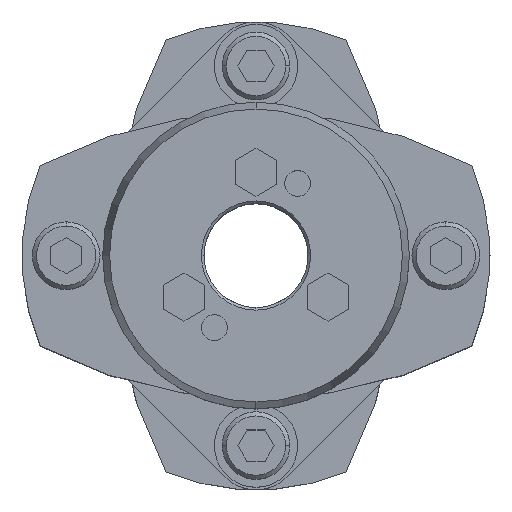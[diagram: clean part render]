
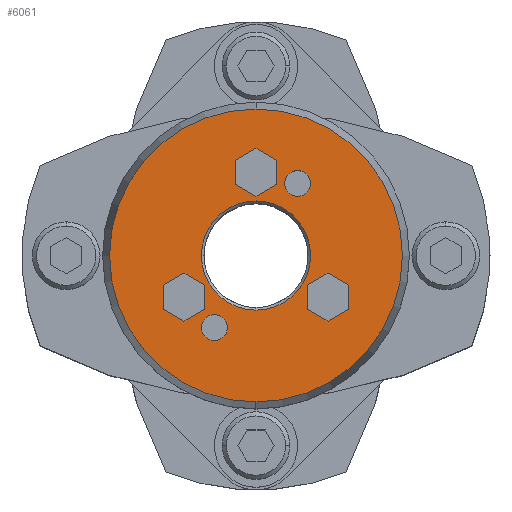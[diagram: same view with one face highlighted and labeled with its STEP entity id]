
A CAD part, top view. The second image highlights one B-rep face of the part: STEP entity #6061.
In plain terms, the highlighted planar face has unit normal (0, 0, 1).
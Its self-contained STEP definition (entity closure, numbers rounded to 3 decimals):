
#1677=CARTESIAN_POINT('',(0.,10.5,52.0));
#1678=VERTEX_POINT('',#1677);
#1694=CARTESIAN_POINT('',(0.,-10.5,52.0));
#1695=VERTEX_POINT('',#1694);
#1702=CARTESIAN_POINT('',(0.,0.,52.0));
#1703=DIRECTION('',(0.0,0.0,1.0));
#1704=DIRECTION('',(0.0,1.0,0.0));
#1705=AXIS2_PLACEMENT_3D('',#1702,#1703,#1704);
#1706=CIRCLE('',#1705,10.5);
#1707=EDGE_CURVE('',#1695,#1678,#1706,.T.);
#1865=CARTESIAN_POINT('',(0.,-28.16,52.0));
#1866=VERTEX_POINT('',#1865);
#1873=CARTESIAN_POINT('',(0.,28.16,52.0));
#1874=VERTEX_POINT('',#1873);
#1875=CARTESIAN_POINT('',(0.,0.,52.0));
#1876=DIRECTION('',(0.0,0.0,-1.0));
#1877=DIRECTION('',(0.0,-1.0,0.0));
#1878=AXIS2_PLACEMENT_3D('',#1875,#1876,#1877);
#1879=CIRCLE('',#1878,28.16);
#1880=EDGE_CURVE('',#1866,#1874,#1879,.T.);
#2123=CARTESIAN_POINT('',(8.,16.356,52.0));
#2124=VERTEX_POINT('',#2123);
#2140=CARTESIAN_POINT('',(8.,11.356,52.0));
#2141=VERTEX_POINT('',#2140);
#2148=CARTESIAN_POINT('',(8.,13.856,52.0));
#2149=DIRECTION('',(0.0,0.0,-1.0));
#2150=DIRECTION('',(0.0,1.0,0.0));
#2151=AXIS2_PLACEMENT_3D('',#2148,#2149,#2150);
#2152=CIRCLE('',#2151,2.5);
#2153=EDGE_CURVE('',#2124,#2141,#2152,.T.);
#2165=CARTESIAN_POINT('',(-8.,-11.356,52.0));
#2166=VERTEX_POINT('',#2165);
#2182=CARTESIAN_POINT('',(-8.,-16.356,52.0));
#2183=VERTEX_POINT('',#2182);
#2190=CARTESIAN_POINT('',(-8.,-13.856,52.0));
#2191=DIRECTION('',(0.0,0.0,-1.0));
#2192=DIRECTION('',(0.0,1.0,0.0));
#2193=AXIS2_PLACEMENT_3D('',#2190,#2191,#2192);
#2194=CIRCLE('',#2193,2.5);
#2195=EDGE_CURVE('',#2166,#2183,#2194,.T.);
#4577=CARTESIAN_POINT('',(13.856,-3.381,52.0));
#4578=VERTEX_POINT('',#4577);
#4585=CARTESIAN_POINT('',(9.856,-5.691,52.0));
#4586=VERTEX_POINT('',#4585);
#4587=CARTESIAN_POINT('',(9.856,-5.691,52.0));
#4588=DIRECTION('',(0.866,0.5,0.0));
#4589=VECTOR('',#4588,4.619);
#4590=LINE('',#4587,#4589);
#4591=EDGE_CURVE('',#4586,#4578,#4590,.T.);
#4615=CARTESIAN_POINT('',(17.856,-5.691,52.0));
#4616=VERTEX_POINT('',#4615);
#4623=CARTESIAN_POINT('',(13.856,-3.381,52.0));
#4624=DIRECTION('',(0.866,-0.5,0.0));
#4625=VECTOR('',#4624,4.619);
#4626=LINE('',#4623,#4625);
#4627=EDGE_CURVE('',#4578,#4616,#4626,.T.);
#4646=CARTESIAN_POINT('',(17.856,-10.309,52.0));
#4647=VERTEX_POINT('',#4646);
#4654=CARTESIAN_POINT('',(17.856,-5.691,52.0));
#4655=DIRECTION('',(0.0,-1.0,0.0));
#4656=VECTOR('',#4655,4.619);
#4657=LINE('',#4654,#4656);
#4658=EDGE_CURVE('',#4616,#4647,#4657,.T.);
#4677=CARTESIAN_POINT('',(13.856,-12.619,52.0));
#4678=VERTEX_POINT('',#4677);
#4685=CARTESIAN_POINT('',(17.856,-10.309,52.0));
#4686=DIRECTION('',(-0.866,-0.5,0.0));
#4687=VECTOR('',#4686,4.619);
#4688=LINE('',#4685,#4687);
#4689=EDGE_CURVE('',#4647,#4678,#4688,.T.);
#4708=CARTESIAN_POINT('',(9.856,-10.309,52.0));
#4709=VERTEX_POINT('',#4708);
#4716=CARTESIAN_POINT('',(13.856,-12.619,52.0));
#4717=DIRECTION('',(-0.866,0.5,0.0));
#4718=VECTOR('',#4717,4.619);
#4719=LINE('',#4716,#4718);
#4720=EDGE_CURVE('',#4678,#4709,#4719,.T.);
#4738=CARTESIAN_POINT('',(9.856,-10.309,52.0));
#4739=DIRECTION('',(0.0,1.0,0.0));
#4740=VECTOR('',#4739,4.619);
#4741=LINE('',#4738,#4740);
#4742=EDGE_CURVE('',#4709,#4586,#4741,.T.);
#4777=CARTESIAN_POINT('',(0.,20.619,52.0));
#4778=VERTEX_POINT('',#4777);
#4785=CARTESIAN_POINT('',(-4.,18.309,52.0));
#4786=VERTEX_POINT('',#4785);
#4787=CARTESIAN_POINT('',(-4.,18.309,52.0));
#4788=DIRECTION('',(0.866,0.5,0.0));
#4789=VECTOR('',#4788,4.619);
#4790=LINE('',#4787,#4789);
#4791=EDGE_CURVE('',#4786,#4778,#4790,.T.);
#4815=CARTESIAN_POINT('',(4.,18.309,52.0));
#4816=VERTEX_POINT('',#4815);
#4823=CARTESIAN_POINT('',(0.,20.619,52.0));
#4824=DIRECTION('',(0.866,-0.5,0.0));
#4825=VECTOR('',#4824,4.619);
#4826=LINE('',#4823,#4825);
#4827=EDGE_CURVE('',#4778,#4816,#4826,.T.);
#4846=CARTESIAN_POINT('',(4.,13.691,52.0));
#4847=VERTEX_POINT('',#4846);
#4854=CARTESIAN_POINT('',(4.,18.309,52.0));
#4855=DIRECTION('',(0.0,-1.0,0.0));
#4856=VECTOR('',#4855,4.619);
#4857=LINE('',#4854,#4856);
#4858=EDGE_CURVE('',#4816,#4847,#4857,.T.);
#4877=CARTESIAN_POINT('',(0.,11.381,52.0));
#4878=VERTEX_POINT('',#4877);
#4885=CARTESIAN_POINT('',(4.,13.691,52.0));
#4886=DIRECTION('',(-0.866,-0.5,0.0));
#4887=VECTOR('',#4886,4.619);
#4888=LINE('',#4885,#4887);
#4889=EDGE_CURVE('',#4847,#4878,#4888,.T.);
#4908=CARTESIAN_POINT('',(-4.,13.691,52.0));
#4909=VERTEX_POINT('',#4908);
#4916=CARTESIAN_POINT('',(0.,11.381,52.0));
#4917=DIRECTION('',(-0.866,0.5,0.0));
#4918=VECTOR('',#4917,4.619);
#4919=LINE('',#4916,#4918);
#4920=EDGE_CURVE('',#4878,#4909,#4919,.T.);
#4938=CARTESIAN_POINT('',(-4.,13.691,52.0));
#4939=DIRECTION('',(0.0,1.0,0.0));
#4940=VECTOR('',#4939,4.619);
#4941=LINE('',#4938,#4940);
#4942=EDGE_CURVE('',#4909,#4786,#4941,.T.);
#4977=CARTESIAN_POINT('',(-13.856,-3.381,52.0));
#4978=VERTEX_POINT('',#4977);
#4985=CARTESIAN_POINT('',(-17.856,-5.691,52.0));
#4986=VERTEX_POINT('',#4985);
#4987=CARTESIAN_POINT('',(-17.856,-5.691,52.0));
#4988=DIRECTION('',(0.866,0.5,0.0));
#4989=VECTOR('',#4988,4.619);
#4990=LINE('',#4987,#4989);
#4991=EDGE_CURVE('',#4986,#4978,#4990,.T.);
#5015=CARTESIAN_POINT('',(-9.856,-5.691,52.0));
#5016=VERTEX_POINT('',#5015);
#5023=CARTESIAN_POINT('',(-13.856,-3.381,52.0));
#5024=DIRECTION('',(0.866,-0.5,0.0));
#5025=VECTOR('',#5024,4.619);
#5026=LINE('',#5023,#5025);
#5027=EDGE_CURVE('',#4978,#5016,#5026,.T.);
#5046=CARTESIAN_POINT('',(-9.856,-10.309,52.0));
#5047=VERTEX_POINT('',#5046);
#5054=CARTESIAN_POINT('',(-9.856,-5.691,52.0));
#5055=DIRECTION('',(0.0,-1.0,0.0));
#5056=VECTOR('',#5055,4.619);
#5057=LINE('',#5054,#5056);
#5058=EDGE_CURVE('',#5016,#5047,#5057,.T.);
#5077=CARTESIAN_POINT('',(-13.856,-12.619,52.0));
#5078=VERTEX_POINT('',#5077);
#5085=CARTESIAN_POINT('',(-9.856,-10.309,52.0));
#5086=DIRECTION('',(-0.866,-0.5,0.0));
#5087=VECTOR('',#5086,4.619);
#5088=LINE('',#5085,#5087);
#5089=EDGE_CURVE('',#5047,#5078,#5088,.T.);
#5108=CARTESIAN_POINT('',(-17.856,-10.309,52.0));
#5109=VERTEX_POINT('',#5108);
#5116=CARTESIAN_POINT('',(-13.856,-12.619,52.0));
#5117=DIRECTION('',(-0.866,0.5,0.0));
#5118=VECTOR('',#5117,4.619);
#5119=LINE('',#5116,#5118);
#5120=EDGE_CURVE('',#5078,#5109,#5119,.T.);
#5138=CARTESIAN_POINT('',(-17.856,-10.309,52.0));
#5139=DIRECTION('',(0.0,1.0,0.0));
#5140=VECTOR('',#5139,4.619);
#5141=LINE('',#5138,#5140);
#5142=EDGE_CURVE('',#5109,#4986,#5141,.T.);
#5168=CARTESIAN_POINT('',(-8.,-13.856,52.0));
#5169=DIRECTION('',(0.0,0.0,-1.0));
#5170=DIRECTION('',(0.0,1.0,0.0));
#5171=AXIS2_PLACEMENT_3D('',#5168,#5169,#5170);
#5172=CIRCLE('',#5171,2.5);
#5173=EDGE_CURVE('',#2183,#2166,#5172,.T.);
#5202=CARTESIAN_POINT('',(8.,13.856,52.0));
#5203=DIRECTION('',(0.0,0.0,-1.0));
#5204=DIRECTION('',(0.0,1.0,0.0));
#5205=AXIS2_PLACEMENT_3D('',#5202,#5203,#5204);
#5206=CIRCLE('',#5205,2.5);
#5207=EDGE_CURVE('',#2141,#2124,#5206,.T.);
#6000=CARTESIAN_POINT('',(0.,0.,52.0));
#6001=DIRECTION('',(0.0,0.0,-1.0));
#6002=DIRECTION('',(0.0,-1.0,0.0));
#6003=AXIS2_PLACEMENT_3D('',#6000,#6001,#6002);
#6004=CIRCLE('',#6003,28.16);
#6005=EDGE_CURVE('',#1874,#1866,#6004,.T.);
#6010=CARTESIAN_POINT('',(0.,2.682,52.0));
#6011=DIRECTION('',(0.0,0.0,1.0));
#6012=DIRECTION('',(0.0,1.0,0.0));
#6013=AXIS2_PLACEMENT_3D('',#6010,#6011,#6012);
#6014=PLANE('',#6013);
#6015=ORIENTED_EDGE('',*,*,#6005,.F.);
#6016=ORIENTED_EDGE('',*,*,#1880,.F.);
#6017=EDGE_LOOP('',(#6015,#6016));
#6018=FACE_OUTER_BOUND('',#6017,.T.);
#6019=ORIENTED_EDGE('',*,*,#4591,.T.);
#6020=ORIENTED_EDGE('',*,*,#4627,.T.);
#6021=ORIENTED_EDGE('',*,*,#4658,.T.);
#6022=ORIENTED_EDGE('',*,*,#4689,.T.);
#6023=ORIENTED_EDGE('',*,*,#4720,.T.);
#6024=ORIENTED_EDGE('',*,*,#4742,.T.);
#6025=EDGE_LOOP('',(#6019,#6020,#6021,#6022,#6023,#6024));
#6026=FACE_BOUND('',#6025,.T.);
#6027=ORIENTED_EDGE('',*,*,#4791,.T.);
#6028=ORIENTED_EDGE('',*,*,#4827,.T.);
#6029=ORIENTED_EDGE('',*,*,#4858,.T.);
#6030=ORIENTED_EDGE('',*,*,#4889,.T.);
#6031=ORIENTED_EDGE('',*,*,#4920,.T.);
#6032=ORIENTED_EDGE('',*,*,#4942,.T.);
#6033=EDGE_LOOP('',(#6027,#6028,#6029,#6030,#6031,#6032));
#6034=FACE_BOUND('',#6033,.T.);
#6035=ORIENTED_EDGE('',*,*,#4991,.T.);
#6036=ORIENTED_EDGE('',*,*,#5027,.T.);
#6037=ORIENTED_EDGE('',*,*,#5058,.T.);
#6038=ORIENTED_EDGE('',*,*,#5089,.T.);
#6039=ORIENTED_EDGE('',*,*,#5120,.T.);
#6040=ORIENTED_EDGE('',*,*,#5142,.T.);
#6041=EDGE_LOOP('',(#6035,#6036,#6037,#6038,#6039,#6040));
#6042=FACE_BOUND('',#6041,.T.);
#6043=ORIENTED_EDGE('',*,*,#2195,.T.);
#6044=ORIENTED_EDGE('',*,*,#5173,.T.);
#6045=EDGE_LOOP('',(#6043,#6044));
#6046=FACE_BOUND('',#6045,.T.);
#6047=ORIENTED_EDGE('',*,*,#2153,.T.);
#6048=ORIENTED_EDGE('',*,*,#5207,.T.);
#6049=EDGE_LOOP('',(#6047,#6048));
#6050=FACE_BOUND('',#6049,.T.);
#6051=ORIENTED_EDGE('',*,*,#1707,.F.);
#6052=CARTESIAN_POINT('',(0.,0.,52.0));
#6053=DIRECTION('',(0.0,0.0,1.0));
#6054=DIRECTION('',(0.0,1.0,0.0));
#6055=AXIS2_PLACEMENT_3D('',#6052,#6053,#6054);
#6056=CIRCLE('',#6055,10.5);
#6057=EDGE_CURVE('',#1678,#1695,#6056,.T.);
#6058=ORIENTED_EDGE('',*,*,#6057,.F.);
#6059=EDGE_LOOP('',(#6051,#6058));
#6060=FACE_BOUND('',#6059,.T.);
#6061=ADVANCED_FACE('',(#6018,#6026,#6034,#6042,#6046,#6050,#6060),#6014,.T.);
